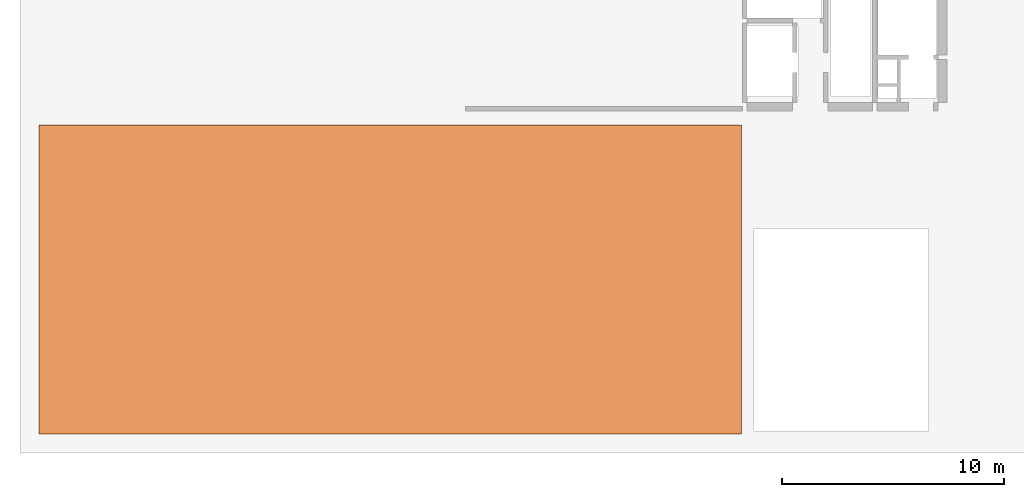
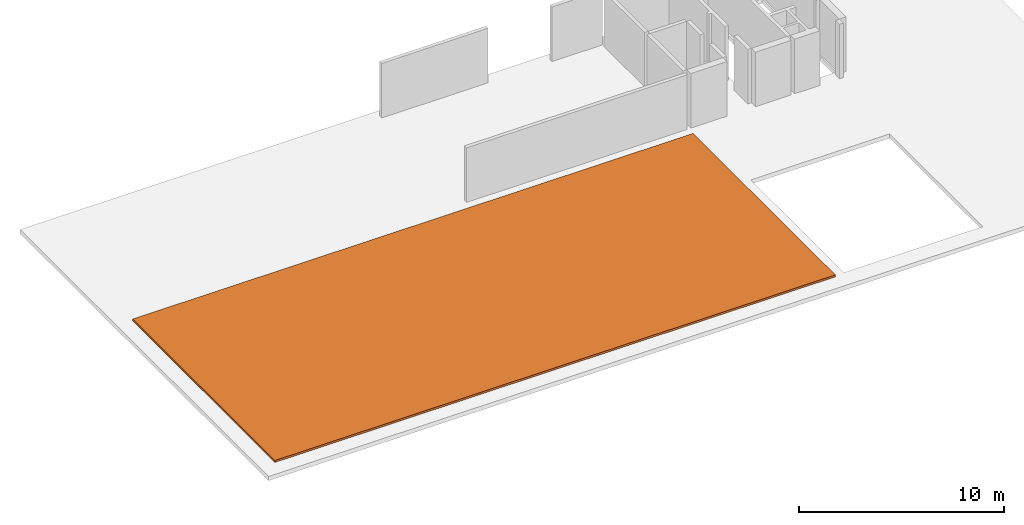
# One storey, part 2 of 2: 1 proxy.
"""IFC4 building model written with IfcOpenShell, lengths in millimetres."""

from ifc_helpers import new_model, si_unit, frame, origin, place, context, project, spatial, triangles, element, save


model = new_model("IFC4")

# Units and contexts
model_context = context("Model", 3, precision=0.001, world=origin())
ifc_project = project(units=[si_unit("LENGTHUNIT", "METRE", prefix="MILLI"), si_unit("AREAUNIT", "SQUARE_METRE"), si_unit("VOLUMEUNIT", "CUBIC_METRE")], contexts=[model_context])

# Site, building, storey
site_placement = place(None, origin())
site = spatial("IfcSite", under=ifc_project, at=site_placement, Name="Site", CompositionType="ELEMENT")
building_placement = place(site_placement, origin())
building = spatial("IfcBuilding", under=site, at=building_placement, Name="INNOCEAN", CompositionType="ELEMENT")
storey_placement = place(building_placement, frame((0.0, 0.0, 84800.0)))
storey = spatial("IfcBuildingStorey", under=building, at=storey_placement, Name="RF", CompositionType="ELEMENT", Elevation=84800.0)

# Proxy
proxy_placement = place(storey_placement, origin())
element("IfcBuildingElementProxy", 1, at=proxy_placement, inside=storey, Name="RF_Garden_RF_001", context=model_context, shape_type="Tessellation", body=[
    triangles([(31592.03187251, 16300.0, 25.0), (0.0, 16300.0, 25.0), (0.0, 16300.0, 145.0), (31592.03187251, 16300.0, 145.0), (31592.03187251, 2399.1341991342, 25.0), (31592.03187251, 2399.1341991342, 145.0), (0.0, 2399.1341991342, 25.0), (0.0, 2399.1341991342, 145.0)], [[1, 2, 3], [1, 3, 4], [5, 1, 4], [5, 4, 6], [7, 5, 6], [7, 6, 8], [2, 7, 8], [2, 8, 3], [2, 1, 5], [2, 5, 7], [4, 3, 6], [6, 3, 8]], closed=True),
])

save(model, "model.ifc")
